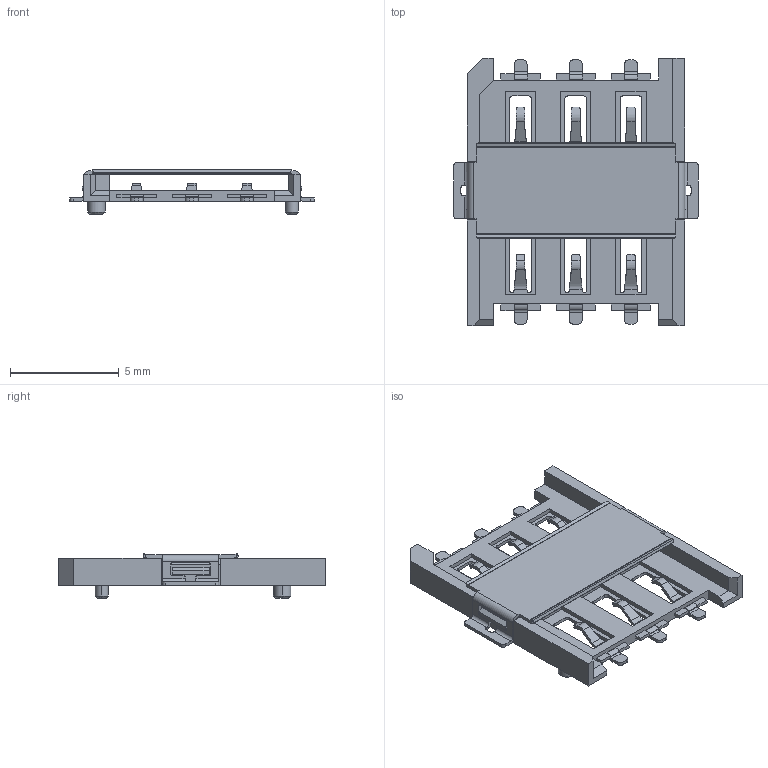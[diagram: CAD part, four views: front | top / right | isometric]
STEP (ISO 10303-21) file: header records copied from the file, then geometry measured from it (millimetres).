
FILE_DESCRIPTION((''),'2;1');
FILE_NAME('NANO_SIM_CARD_2015-1223_ASM','2019-09-10T',('Administrator'),(''),'PRO/ENGINEER BY PARAMETRIC TECHNOLOGY CORPORATION, 2011310','PRO/ENGINEER BY PARAMETRIC TECHNOLOGY CORPORATION, 2011310','');
FILE_SCHEMA(('CONFIG_CONTROL_DESIGN'));
Length unit declared in the file: millimetre
Products named in the file (1): NANO_SIM_CARD_2015-1223_ASM
Bounding box: 11.25 x 12.3 x 2.05 mm (x, y, z)
Volume: 52.8 mm3; surface area: 405.4 mm2
Topology: 1 solids, 2 shells, 484 faces, 1339 edges, 875 vertices
Faces by surface type: plane 327, cylinder 137, bspline 12, cone 4, extrusion 4
Entity records: 15942 total; most frequent: CARTESIAN_POINT 3400, ORIENTED_EDGE 2674, DIRECTION 2500, EDGE_CURVE 1339, VECTOR 1010, LINE 1006, VERTEX_POINT 875, AXIS2_PLACEMENT_3D 745
